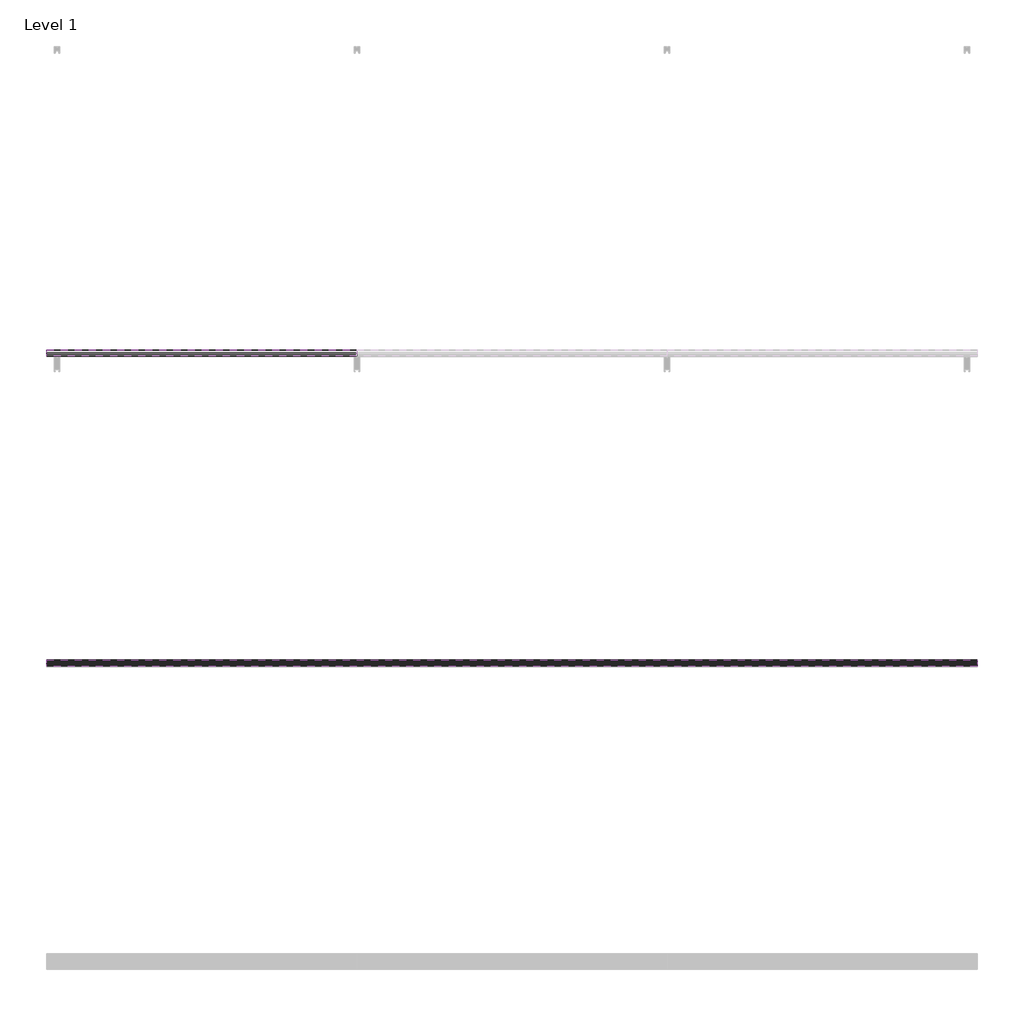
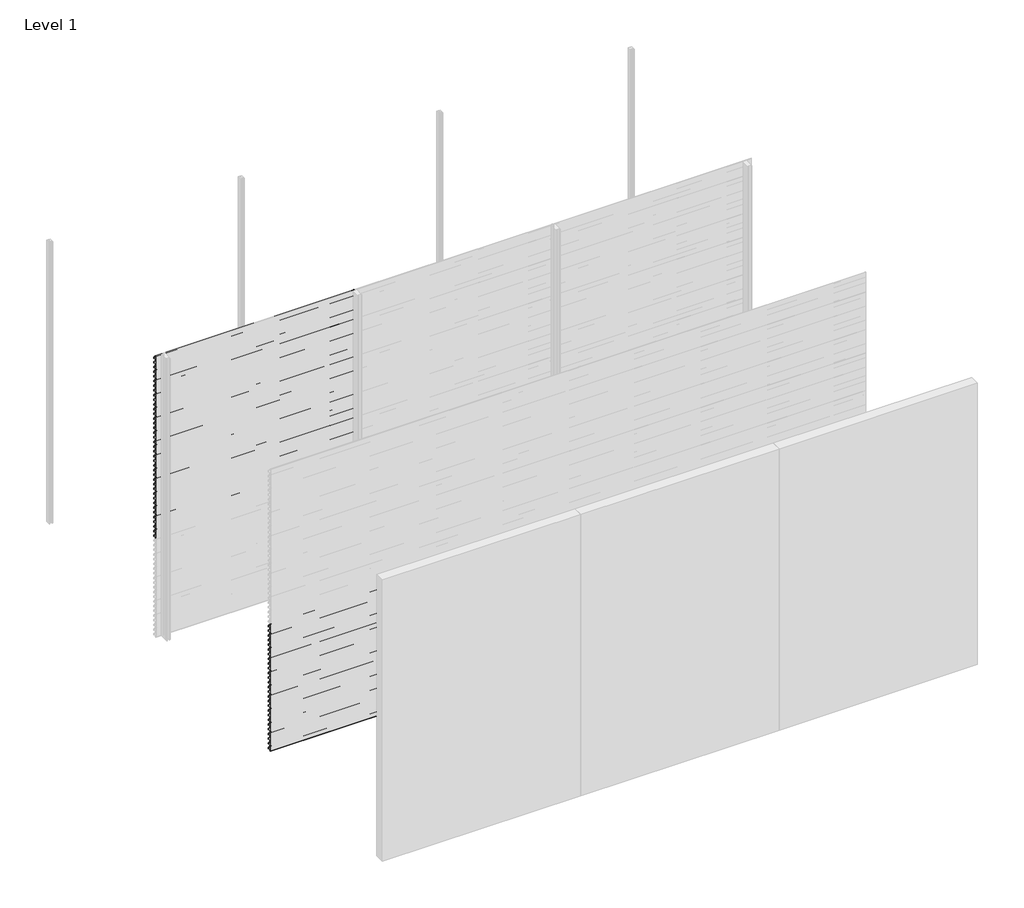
# One storey, part 25 of 38: 66 proxies.
"""IFC4 building model written with IfcOpenShell, lengths in millimetres."""

from ifc_helpers import new_model, si_unit, frame, origin, place, context, project, spatial, polyline, outline, extrude, element, save

model = new_model("IFC4")

# Units and contexts
model_context = context("Model", 3, world=origin())
ifc_project = project(units=[si_unit("LENGTHUNIT", "METRE", prefix="MILLI")], contexts=[model_context])

# Site, building, storey
site = spatial("IfcSite", under=ifc_project)
building = spatial("IfcBuilding", under=site)
storey = spatial("IfcBuildingStorey", under=building, Name="Level 1", Elevation=0.0)

# Proxies
placement = place(None, origin())
element("IfcBuildingElementProxy", 1, Name="Wall Sweeps", at=placement, inside=storey, context=model_context, shape_type="SweptSolid", body=[
    extrude(outline(polyline([(-17996.75, 3000.0), (-17996.75, 2989.19656), (-17974.6057113, 2976.4115489), (-17957.0, 2959.0472005), (-17957.0, 2944.0472005), (-17958.3, 2945.0268207), (-17958.3, 2958.5034593), (-17969.4914725, 2969.541504), (-17994.2797376, 2940.0), (-17995.9767671, 2940.0), (-17970.4200307, 2970.4573323), (-17975.3999793, 2975.3690091), (-17998.0, 2988.4171371), (-17998.0, 3000.0), (-17996.75, 3000.0)])), frame((0.0, 0.0, 0.0), z_axis=(1.0, 0.0, 0.0), x_axis=(0.0, 1.0, 0.0)), (0.0, 0.0, 1.0), 2000.0),
])
element("IfcBuildingElementProxy", 2, Name="Wall Sweeps", at=placement, inside=storey, context=model_context, shape_type="SweptSolid", body=[
    extrude(outline(polyline([(-17996.75, 2950.0), (-17996.75, 2939.19656), (-17974.6057113, 2926.4115489), (-17957.0, 2909.0472005), (-17957.0, 2894.0472005), (-17958.3, 2895.0268207), (-17958.3, 2908.5034593), (-17969.4914725, 2919.541504), (-17994.2797376, 2890.0), (-17995.9767671, 2890.0), (-17970.4200307, 2920.4573323), (-17975.3999793, 2925.3690091), (-17998.0, 2938.4171371), (-17998.0, 2950.0), (-17996.75, 2950.0)])), frame((0.0, 0.0, 0.0), z_axis=(1.0, 0.0, 0.0), x_axis=(0.0, 1.0, 0.0)), (0.0, 0.0, 1.0), 2000.0),
])
element("IfcBuildingElementProxy", 3, Name="Wall Sweeps", at=placement, inside=storey, context=model_context, shape_type="SweptSolid", body=[
    extrude(outline(polyline([(-17996.75, 2900.0), (-17996.75, 2889.19656), (-17974.6057113, 2876.4115489), (-17957.0, 2859.0472005), (-17957.0, 2844.0472005), (-17958.3, 2845.0268207), (-17958.3, 2858.5034593), (-17969.4914725, 2869.541504), (-17994.2797376, 2840.0), (-17995.9767671, 2840.0), (-17970.4200307, 2870.4573323), (-17975.3999793, 2875.3690091), (-17998.0, 2888.4171371), (-17998.0, 2900.0), (-17996.75, 2900.0)])), frame((0.0, 0.0, 0.0), z_axis=(1.0, 0.0, 0.0), x_axis=(0.0, 1.0, 0.0)), (0.0, 0.0, 1.0), 2000.0),
])
element("IfcBuildingElementProxy", 4, Name="Wall Sweeps", at=placement, inside=storey, context=model_context, shape_type="SweptSolid", body=[
    extrude(outline(polyline([(-17996.75, 2850.0), (-17996.75, 2839.19656), (-17974.6057113, 2826.4115489), (-17957.0, 2809.0472005), (-17957.0, 2794.0472005), (-17958.3, 2795.0268207), (-17958.3, 2808.5034593), (-17969.4914725, 2819.541504), (-17994.2797376, 2790.0), (-17995.9767671, 2790.0), (-17970.4200307, 2820.4573323), (-17975.3999793, 2825.3690091), (-17998.0, 2838.4171371), (-17998.0, 2850.0), (-17996.75, 2850.0)])), frame((0.0, 0.0, 0.0), z_axis=(1.0, 0.0, 0.0), x_axis=(0.0, 1.0, 0.0)), (0.0, 0.0, 1.0), 2000.0),
])
element("IfcBuildingElementProxy", 5, Name="Wall Sweeps", at=placement, inside=storey, context=model_context, shape_type="SweptSolid", body=[
    extrude(outline(polyline([(-17996.75, 2800.0), (-17996.75, 2789.19656), (-17974.6057113, 2776.4115489), (-17957.0, 2759.0472005), (-17957.0, 2744.0472005), (-17958.3, 2745.0268207), (-17958.3, 2758.5034593), (-17969.4914725, 2769.541504), (-17994.2797376, 2740.0), (-17995.9767671, 2740.0), (-17970.4200307, 2770.4573323), (-17975.3999793, 2775.3690091), (-17998.0, 2788.4171371), (-17998.0, 2800.0), (-17996.75, 2800.0)])), frame((0.0, 0.0, 0.0), z_axis=(1.0, 0.0, 0.0), x_axis=(0.0, 1.0, 0.0)), (0.0, 0.0, 1.0), 2000.0),
])
element("IfcBuildingElementProxy", 6, Name="Wall Sweeps", at=placement, inside=storey, context=model_context, shape_type="SweptSolid", body=[
    extrude(outline(polyline([(-17996.75, 2750.0), (-17996.75, 2739.19656), (-17974.6057113, 2726.4115489), (-17957.0, 2709.0472005), (-17957.0, 2694.0472005), (-17958.3, 2695.0268207), (-17958.3, 2708.5034593), (-17969.4914725, 2719.541504), (-17994.2797376, 2690.0), (-17995.9767671, 2690.0), (-17970.4200307, 2720.4573323), (-17975.3999793, 2725.3690091), (-17998.0, 2738.4171371), (-17998.0, 2750.0), (-17996.75, 2750.0)])), frame((0.0, 0.0, 0.0), z_axis=(1.0, 0.0, 0.0), x_axis=(0.0, 1.0, 0.0)), (0.0, 0.0, 1.0), 2000.0),
])
element("IfcBuildingElementProxy", 7, Name="Wall Sweeps", at=placement, inside=storey, context=model_context, shape_type="SweptSolid", body=[
    extrude(outline(polyline([(-17996.75, 2700.0), (-17996.75, 2689.19656), (-17974.6057113, 2676.4115489), (-17957.0, 2659.0472005), (-17957.0, 2644.0472005), (-17958.3, 2645.0268207), (-17958.3, 2658.5034593), (-17969.4914725, 2669.541504), (-17994.2797376, 2640.0), (-17995.9767671, 2640.0), (-17970.4200307, 2670.4573323), (-17975.3999793, 2675.3690091), (-17998.0, 2688.4171371), (-17998.0, 2700.0), (-17996.75, 2700.0)])), frame((0.0, 0.0, 0.0), z_axis=(1.0, 0.0, 0.0), x_axis=(0.0, 1.0, 0.0)), (0.0, 0.0, 1.0), 2000.0),
])
element("IfcBuildingElementProxy", 8, Name="Wall Sweeps", at=placement, inside=storey, context=model_context, shape_type="SweptSolid", body=[
    extrude(outline(polyline([(-17996.75, 2650.0), (-17996.75, 2639.19656), (-17974.6057113, 2626.4115489), (-17957.0, 2609.0472005), (-17957.0, 2594.0472005), (-17958.3, 2595.0268207), (-17958.3, 2608.5034593), (-17969.4914725, 2619.541504), (-17994.2797376, 2590.0), (-17995.9767671, 2590.0), (-17970.4200307, 2620.4573323), (-17975.3999793, 2625.3690091), (-17998.0, 2638.4171371), (-17998.0, 2650.0), (-17996.75, 2650.0)])), frame((0.0, 0.0, 0.0), z_axis=(1.0, 0.0, 0.0), x_axis=(0.0, 1.0, 0.0)), (0.0, 0.0, 1.0), 2000.0),
])
element("IfcBuildingElementProxy", 9, Name="Wall Sweeps", at=placement, inside=storey, context=model_context, shape_type="SweptSolid", body=[
    extrude(outline(polyline([(-17996.75, 2600.0), (-17996.75, 2589.19656), (-17974.6057113, 2576.4115489), (-17957.0, 2559.0472005), (-17957.0, 2544.0472005), (-17958.3, 2545.0268207), (-17958.3, 2558.5034593), (-17969.4914725, 2569.541504), (-17994.2797376, 2540.0), (-17995.9767671, 2540.0), (-17970.4200307, 2570.4573323), (-17975.3999793, 2575.3690091), (-17998.0, 2588.4171371), (-17998.0, 2600.0), (-17996.75, 2600.0)])), frame((0.0, 0.0, 0.0), z_axis=(1.0, 0.0, 0.0), x_axis=(0.0, 1.0, 0.0)), (0.0, 0.0, 1.0), 2000.0),
])
element("IfcBuildingElementProxy", 10, Name="Wall Sweeps", at=placement, inside=storey, context=model_context, shape_type="SweptSolid", body=[
    extrude(outline(polyline([(-17996.75, 2550.0), (-17996.75, 2539.19656), (-17974.6057113, 2526.4115489), (-17957.0, 2509.0472005), (-17957.0, 2494.0472005), (-17958.3, 2495.0268207), (-17958.3, 2508.5034593), (-17969.4914725, 2519.541504), (-17994.2797376, 2490.0), (-17995.9767671, 2490.0), (-17970.4200307, 2520.4573323), (-17975.3999793, 2525.3690091), (-17998.0, 2538.4171371), (-17998.0, 2550.0), (-17996.75, 2550.0)])), frame((0.0, 0.0, 0.0), z_axis=(1.0, 0.0, 0.0), x_axis=(0.0, 1.0, 0.0)), (0.0, 0.0, 1.0), 2000.0),
])
element("IfcBuildingElementProxy", 11, Name="Wall Sweeps", at=placement, inside=storey, context=model_context, shape_type="SweptSolid", body=[
    extrude(outline(polyline([(-17996.75, 2500.0), (-17996.75, 2489.19656), (-17974.6057113, 2476.4115489), (-17957.0, 2459.0472005), (-17957.0, 2444.0472005), (-17958.3, 2445.0268207), (-17958.3, 2458.5034593), (-17969.4914725, 2469.541504), (-17994.2797376, 2440.0), (-17995.9767671, 2440.0), (-17970.4200307, 2470.4573323), (-17975.3999793, 2475.3690091), (-17998.0, 2488.4171371), (-17998.0, 2500.0), (-17996.75, 2500.0)])), frame((0.0, 0.0, 0.0), z_axis=(1.0, 0.0, 0.0), x_axis=(0.0, 1.0, 0.0)), (0.0, 0.0, 1.0), 2000.0),
])
element("IfcBuildingElementProxy", 12, Name="Wall Sweeps", at=placement, inside=storey, context=model_context, shape_type="SweptSolid", body=[
    extrude(outline(polyline([(-17996.75, 2450.0), (-17996.75, 2439.19656), (-17974.6057113, 2426.4115489), (-17957.0, 2409.0472005), (-17957.0, 2394.0472005), (-17958.3, 2395.0268207), (-17958.3, 2408.5034593), (-17969.4914725, 2419.541504), (-17994.2797376, 2390.0), (-17995.9767671, 2390.0), (-17970.4200307, 2420.4573323), (-17975.3999793, 2425.3690091), (-17998.0, 2438.4171371), (-17998.0, 2450.0), (-17996.75, 2450.0)])), frame((0.0, 0.0, 0.0), z_axis=(1.0, 0.0, 0.0), x_axis=(0.0, 1.0, 0.0)), (0.0, 0.0, 1.0), 2000.0),
])
element("IfcBuildingElementProxy", 13, Name="Wall Sweeps", at=placement, inside=storey, context=model_context, shape_type="SweptSolid", body=[
    extrude(outline(polyline([(-17996.75, 2400.0), (-17996.75, 2389.19656), (-17974.6057113, 2376.4115489), (-17957.0, 2359.0472005), (-17957.0, 2344.0472005), (-17958.3, 2345.0268207), (-17958.3, 2358.5034593), (-17969.4914725, 2369.541504), (-17994.2797376, 2340.0), (-17995.9767671, 2340.0), (-17970.4200307, 2370.4573323), (-17975.3999793, 2375.3690091), (-17998.0, 2388.4171371), (-17998.0, 2400.0), (-17996.75, 2400.0)])), frame((0.0, 0.0, 0.0), z_axis=(1.0, 0.0, 0.0), x_axis=(0.0, 1.0, 0.0)), (0.0, 0.0, 1.0), 2000.0),
])
element("IfcBuildingElementProxy", 14, Name="Wall Sweeps", at=placement, inside=storey, context=model_context, shape_type="SweptSolid", body=[
    extrude(outline(polyline([(-17996.75, 2350.0), (-17996.75, 2339.19656), (-17974.6057113, 2326.4115489), (-17957.0, 2309.0472005), (-17957.0, 2294.0472005), (-17958.3, 2295.0268207), (-17958.3, 2308.5034593), (-17969.4914725, 2319.541504), (-17994.2797376, 2290.0), (-17995.9767671, 2290.0), (-17970.4200307, 2320.4573323), (-17975.3999793, 2325.3690091), (-17998.0, 2338.4171371), (-17998.0, 2350.0), (-17996.75, 2350.0)])), frame((0.0, 0.0, 0.0), z_axis=(1.0, 0.0, 0.0), x_axis=(0.0, 1.0, 0.0)), (0.0, 0.0, 1.0), 2000.0),
])
element("IfcBuildingElementProxy", 15, Name="Wall Sweeps", at=placement, inside=storey, context=model_context, shape_type="SweptSolid", body=[
    extrude(outline(polyline([(-17996.75, 2300.0), (-17996.75, 2289.19656), (-17974.6057113, 2276.4115489), (-17957.0, 2259.0472005), (-17957.0, 2244.0472005), (-17958.3, 2245.0268207), (-17958.3, 2258.5034593), (-17969.4914725, 2269.541504), (-17994.2797376, 2240.0), (-17995.9767671, 2240.0), (-17970.4200307, 2270.4573323), (-17975.3999793, 2275.3690091), (-17998.0, 2288.4171371), (-17998.0, 2300.0), (-17996.75, 2300.0)])), frame((0.0, 0.0, 0.0), z_axis=(1.0, 0.0, 0.0), x_axis=(0.0, 1.0, 0.0)), (0.0, 0.0, 1.0), 2000.0),
])
element("IfcBuildingElementProxy", 16, Name="Wall Sweeps", at=placement, inside=storey, context=model_context, shape_type="SweptSolid", body=[
    extrude(outline(polyline([(-17996.75, 2250.0), (-17996.75, 2239.19656), (-17974.6057113, 2226.4115489), (-17957.0, 2209.0472005), (-17957.0, 2194.0472005), (-17958.3, 2195.0268207), (-17958.3, 2208.5034593), (-17969.4914725, 2219.541504), (-17994.2797376, 2190.0), (-17995.9767671, 2190.0), (-17970.4200307, 2220.4573323), (-17975.3999793, 2225.3690091), (-17998.0, 2238.4171371), (-17998.0, 2250.0), (-17996.75, 2250.0)])), frame((0.0, 0.0, 0.0), z_axis=(1.0, 0.0, 0.0), x_axis=(0.0, 1.0, 0.0)), (0.0, 0.0, 1.0), 2000.0),
])
element("IfcBuildingElementProxy", 17, Name="Wall Sweeps", at=placement, inside=storey, context=model_context, shape_type="SweptSolid", body=[
    extrude(outline(polyline([(-17996.75, 2200.0), (-17996.75, 2189.19656), (-17974.6057113, 2176.4115489), (-17957.0, 2159.0472005), (-17957.0, 2144.0472005), (-17958.3, 2145.0268207), (-17958.3, 2158.5034593), (-17969.4914725, 2169.541504), (-17994.2797376, 2140.0), (-17995.9767671, 2140.0), (-17970.4200307, 2170.4573323), (-17975.3999793, 2175.3690091), (-17998.0, 2188.4171371), (-17998.0, 2200.0), (-17996.75, 2200.0)])), frame((0.0, 0.0, 0.0), z_axis=(1.0, 0.0, 0.0), x_axis=(0.0, 1.0, 0.0)), (0.0, 0.0, 1.0), 2000.0),
])
element("IfcBuildingElementProxy", 18, Name="Wall Sweeps", at=placement, inside=storey, context=model_context, shape_type="SweptSolid", body=[
    extrude(outline(polyline([(-17996.75, 2150.0), (-17996.75, 2139.19656), (-17974.6057113, 2126.4115489), (-17957.0, 2109.0472005), (-17957.0, 2094.0472005), (-17958.3, 2095.0268207), (-17958.3, 2108.5034593), (-17969.4914725, 2119.541504), (-17994.2797376, 2090.0), (-17995.9767671, 2090.0), (-17970.4200307, 2120.4573323), (-17975.3999793, 2125.3690091), (-17998.0, 2138.4171371), (-17998.0, 2150.0), (-17996.75, 2150.0)])), frame((0.0, 0.0, 0.0), z_axis=(1.0, 0.0, 0.0), x_axis=(0.0, 1.0, 0.0)), (0.0, 0.0, 1.0), 2000.0),
])
element("IfcBuildingElementProxy", 19, Name="Wall Sweeps", at=placement, inside=storey, context=model_context, shape_type="SweptSolid", body=[
    extrude(outline(polyline([(-17996.75, 2100.0), (-17996.75, 2089.19656), (-17974.6057113, 2076.4115489), (-17957.0, 2059.0472005), (-17957.0, 2044.0472005), (-17958.3, 2045.0268207), (-17958.3, 2058.5034593), (-17969.4914725, 2069.541504), (-17994.2797376, 2040.0), (-17995.9767671, 2040.0), (-17970.4200307, 2070.4573323), (-17975.3999793, 2075.3690091), (-17998.0, 2088.4171371), (-17998.0, 2100.0), (-17996.75, 2100.0)])), frame((0.0, 0.0, 0.0), z_axis=(1.0, 0.0, 0.0), x_axis=(0.0, 1.0, 0.0)), (0.0, 0.0, 1.0), 2000.0),
])
element("IfcBuildingElementProxy", 20, Name="Wall Sweeps", at=placement, inside=storey, context=model_context, shape_type="SweptSolid", body=[
    extrude(outline(polyline([(-17996.75, 2050.0), (-17996.75, 2039.19656), (-17974.6057113, 2026.4115489), (-17957.0, 2009.0472005), (-17957.0, 1994.0472005), (-17958.3, 1995.0268207), (-17958.3, 2008.5034593), (-17969.4914725, 2019.541504), (-17994.2797376, 1990.0), (-17995.9767671, 1990.0), (-17970.4200307, 2020.4573323), (-17975.3999793, 2025.3690091), (-17998.0, 2038.4171371), (-17998.0, 2050.0), (-17996.75, 2050.0)])), frame((0.0, 0.0, 0.0), z_axis=(1.0, 0.0, 0.0), x_axis=(0.0, 1.0, 0.0)), (0.0, 0.0, 1.0), 2000.0),
])
element("IfcBuildingElementProxy", 21, Name="Wall Sweeps", at=placement, inside=storey, context=model_context, shape_type="SweptSolid", body=[
    extrude(outline(polyline([(-17996.75, 2000.0), (-17996.75, 1989.19656), (-17974.6057113, 1976.4115489), (-17957.0, 1959.0472005), (-17957.0, 1944.0472005), (-17958.3, 1945.0268207), (-17958.3, 1958.5034593), (-17969.4914725, 1969.541504), (-17994.2797376, 1940.0), (-17995.9767671, 1940.0), (-17970.4200307, 1970.4573323), (-17975.3999793, 1975.3690091), (-17998.0, 1988.4171371), (-17998.0, 2000.0), (-17996.75, 2000.0)])), frame((0.0, 0.0, 0.0), z_axis=(1.0, 0.0, 0.0), x_axis=(0.0, 1.0, 0.0)), (0.0, 0.0, 1.0), 2000.0),
])
element("IfcBuildingElementProxy", 22, Name="Wall Sweeps", at=placement, inside=storey, context=model_context, shape_type="SweptSolid", body=[
    extrude(outline(polyline([(-17996.75, 1950.0), (-17996.75, 1939.19656), (-17974.6057113, 1926.4115489), (-17957.0, 1909.0472005), (-17957.0, 1894.0472005), (-17958.3, 1895.0268207), (-17958.3, 1908.5034593), (-17969.4914725, 1919.541504), (-17994.2797376, 1890.0), (-17995.9767671, 1890.0), (-17970.4200307, 1920.4573323), (-17975.3999793, 1925.3690091), (-17998.0, 1938.4171371), (-17998.0, 1950.0), (-17996.75, 1950.0)])), frame((0.0, 0.0, 0.0), z_axis=(1.0, 0.0, 0.0), x_axis=(0.0, 1.0, 0.0)), (0.0, 0.0, 1.0), 2000.0),
])
element("IfcBuildingElementProxy", 23, Name="Wall Sweeps", at=placement, inside=storey, context=model_context, shape_type="SweptSolid", body=[
    extrude(outline(polyline([(-17996.75, 1900.0), (-17996.75, 1889.19656), (-17974.6057113, 1876.4115489), (-17957.0, 1859.0472005), (-17957.0, 1844.0472005), (-17958.3, 1845.0268207), (-17958.3, 1858.5034593), (-17969.4914725, 1869.541504), (-17994.2797376, 1840.0), (-17995.9767671, 1840.0), (-17970.4200307, 1870.4573323), (-17975.3999793, 1875.3690091), (-17998.0, 1888.4171371), (-17998.0, 1900.0), (-17996.75, 1900.0)])), frame((0.0, 0.0, 0.0), z_axis=(1.0, 0.0, 0.0), x_axis=(0.0, 1.0, 0.0)), (0.0, 0.0, 1.0), 2000.0),
])
element("IfcBuildingElementProxy", 24, Name="Wall Sweeps", at=placement, inside=storey, context=model_context, shape_type="SweptSolid", body=[
    extrude(outline(polyline([(-17996.75, 1850.0), (-17996.75, 1839.19656), (-17974.6057113, 1826.4115489), (-17957.0, 1809.0472005), (-17957.0, 1794.0472005), (-17958.3, 1795.0268207), (-17958.3, 1808.5034593), (-17969.4914725, 1819.541504), (-17994.2797376, 1790.0), (-17995.9767671, 1790.0), (-17970.4200307, 1820.4573323), (-17975.3999793, 1825.3690091), (-17998.0, 1838.4171371), (-17998.0, 1850.0), (-17996.75, 1850.0)])), frame((0.0, 0.0, 0.0), z_axis=(1.0, 0.0, 0.0), x_axis=(0.0, 1.0, 0.0)), (0.0, 0.0, 1.0), 2000.0),
])
element("IfcBuildingElementProxy", 25, Name="Wall Sweeps", at=placement, inside=storey, context=model_context, shape_type="SweptSolid", body=[
    extrude(outline(polyline([(-17996.75, 1800.0), (-17996.75, 1789.19656), (-17974.6057113, 1776.4115489), (-17957.0, 1759.0472005), (-17957.0, 1744.0472005), (-17958.3, 1745.0268207), (-17958.3, 1758.5034593), (-17969.4914725, 1769.541504), (-17994.2797376, 1740.0), (-17995.9767671, 1740.0), (-17970.4200307, 1770.4573323), (-17975.3999793, 1775.3690091), (-17998.0, 1788.4171371), (-17998.0, 1800.0), (-17996.75, 1800.0)])), frame((0.0, 0.0, 0.0), z_axis=(1.0, 0.0, 0.0), x_axis=(0.0, 1.0, 0.0)), (0.0, 0.0, 1.0), 2000.0),
])
element("IfcBuildingElementProxy", 26, Name="Wall Sweeps", at=placement, inside=storey, context=model_context, shape_type="SweptSolid", body=[
    extrude(outline(polyline([(-17996.75, 1750.0), (-17996.75, 1739.19656), (-17974.6057113, 1726.4115489), (-17957.0, 1709.0472005), (-17957.0, 1694.0472005), (-17958.3, 1695.0268207), (-17958.3, 1708.5034593), (-17969.4914725, 1719.541504), (-17994.2797376, 1690.0), (-17995.9767671, 1690.0), (-17970.4200307, 1720.4573323), (-17975.3999793, 1725.3690091), (-17998.0, 1738.4171371), (-17998.0, 1750.0), (-17996.75, 1750.0)])), frame((0.0, 0.0, 0.0), z_axis=(1.0, 0.0, 0.0), x_axis=(0.0, 1.0, 0.0)), (0.0, 0.0, 1.0), 2000.0),
])
element("IfcBuildingElementProxy", 27, Name="Wall Sweeps", at=placement, inside=storey, context=model_context, shape_type="SweptSolid", body=[
    extrude(outline(polyline([(-17996.75, 1700.0), (-17996.75, 1689.19656), (-17974.6057113, 1676.4115489), (-17957.0, 1659.0472005), (-17957.0, 1644.0472005), (-17958.3, 1645.0268207), (-17958.3, 1658.5034593), (-17969.4914725, 1669.541504), (-17994.2797376, 1640.0), (-17995.9767671, 1640.0), (-17970.4200307, 1670.4573323), (-17975.3999793, 1675.3690091), (-17998.0, 1688.4171371), (-17998.0, 1700.0), (-17996.75, 1700.0)])), frame((0.0, 0.0, 0.0), z_axis=(1.0, 0.0, 0.0), x_axis=(0.0, 1.0, 0.0)), (0.0, 0.0, 1.0), 2000.0),
])
element("IfcBuildingElementProxy", 28, Name="Wall Sweeps", at=placement, inside=storey, context=model_context, shape_type="SweptSolid", body=[
    extrude(outline(polyline([(-17996.75, 1650.0), (-17996.75, 1639.19656), (-17974.6057113, 1626.4115489), (-17957.0, 1609.0472005), (-17957.0, 1594.0472005), (-17958.3, 1595.0268207), (-17958.3, 1608.5034593), (-17969.4914725, 1619.541504), (-17994.2797376, 1590.0), (-17995.9767671, 1590.0), (-17970.4200307, 1620.4573323), (-17975.3999793, 1625.3690091), (-17998.0, 1638.4171371), (-17998.0, 1650.0), (-17996.75, 1650.0)])), frame((0.0, 0.0, 0.0), z_axis=(1.0, 0.0, 0.0), x_axis=(0.0, 1.0, 0.0)), (0.0, 0.0, 1.0), 2000.0),
])
element("IfcBuildingElementProxy", 29, Name="Wall Sweeps", at=placement, inside=storey, context=model_context, shape_type="SweptSolid", body=[
    extrude(outline(polyline([(-17996.75, 1600.0), (-17996.75, 1589.19656), (-17974.6057113, 1576.4115489), (-17957.0, 1559.0472005), (-17957.0, 1544.0472005), (-17958.3, 1545.0268207), (-17958.3, 1558.5034593), (-17969.4914725, 1569.541504), (-17994.2797376, 1540.0), (-17995.9767671, 1540.0), (-17970.4200307, 1570.4573323), (-17975.3999793, 1575.3690091), (-17998.0, 1588.4171371), (-17998.0, 1600.0), (-17996.75, 1600.0)])), frame((0.0, 0.0, 0.0), z_axis=(1.0, 0.0, 0.0), x_axis=(0.0, 1.0, 0.0)), (0.0, 0.0, 1.0), 2000.0),
])
element("IfcBuildingElementProxy", 30, Name="Wall Sweeps", at=placement, inside=storey, context=model_context, shape_type="SweptSolid", body=[
    extrude(outline(polyline([(-17996.75, 1550.0), (-17996.75, 1539.19656), (-17974.6057113, 1526.4115489), (-17957.0, 1509.0472005), (-17957.0, 1494.0472005), (-17958.3, 1495.0268207), (-17958.3, 1508.5034593), (-17969.4914725, 1519.541504), (-17994.2797376, 1490.0), (-17995.9767671, 1490.0), (-17970.4200307, 1520.4573323), (-17975.3999793, 1525.3690091), (-17998.0, 1538.4171371), (-17998.0, 1550.0), (-17996.75, 1550.0)])), frame((0.0, 0.0, 0.0), z_axis=(1.0, 0.0, 0.0), x_axis=(0.0, 1.0, 0.0)), (0.0, 0.0, 1.0), 2000.0),
])
element("IfcBuildingElementProxy", 31, Name="Wall Sweeps", at=placement, inside=storey, context=model_context, shape_type="SweptSolid", body=[
    extrude(outline(polyline([(-17996.75, 1500.0), (-17996.75, 1489.19656), (-17974.6057113, 1476.4115489), (-17957.0, 1459.0472005), (-17957.0, 1444.0472005), (-17958.3, 1445.0268207), (-17958.3, 1458.5034593), (-17969.4914725, 1469.541504), (-17994.2797376, 1440.0), (-17995.9767671, 1440.0), (-17970.4200307, 1470.4573323), (-17975.3999793, 1475.3690091), (-17998.0, 1488.4171371), (-17998.0, 1500.0), (-17996.75, 1500.0)])), frame((0.0, 0.0, 0.0), z_axis=(1.0, 0.0, 0.0), x_axis=(0.0, 1.0, 0.0)), (0.0, 0.0, 1.0), 2000.0),
])
element("IfcBuildingElementProxy", 32, Name="Wall Sweeps", at=placement, inside=storey, context=model_context, shape_type="SweptSolid", body=[
    extrude(outline(polyline([(-17996.75, 1450.0), (-17996.75, 1439.19656), (-17974.6057113, 1426.4115489), (-17957.0, 1409.0472005), (-17957.0, 1394.0472005), (-17958.3, 1395.0268207), (-17958.3, 1408.5034593), (-17969.4914725, 1419.541504), (-17994.2797376, 1390.0), (-17995.9767671, 1390.0), (-17970.4200307, 1420.4573323), (-17975.3999793, 1425.3690091), (-17998.0, 1438.4171371), (-17998.0, 1450.0), (-17996.75, 1450.0)])), frame((0.0, 0.0, 0.0), z_axis=(1.0, 0.0, 0.0), x_axis=(0.0, 1.0, 0.0)), (0.0, 0.0, 1.0), 2000.0),
])
element("IfcBuildingElementProxy", 33, Name="Wall Sweeps", at=placement, inside=storey, context=model_context, shape_type="SweptSolid", body=[
    extrude(outline(polyline([(-17996.75, 1400.0), (-17996.75, 1389.19656), (-17974.6057113, 1376.4115489), (-17957.0, 1359.0472005), (-17957.0, 1344.0472005), (-17958.3, 1345.0268207), (-17958.3, 1358.5034593), (-17969.4914725, 1369.541504), (-17994.2797376, 1340.0), (-17995.9767671, 1340.0), (-17970.4200307, 1370.4573323), (-17975.3999793, 1375.3690091), (-17998.0, 1388.4171371), (-17998.0, 1400.0), (-17996.75, 1400.0)])), frame((0.0, 0.0, 0.0), z_axis=(1.0, 0.0, 0.0), x_axis=(0.0, 1.0, 0.0)), (0.0, 0.0, 1.0), 2000.0),
])
element("IfcBuildingElementProxy", 34, Name="Wall Sweeps", at=placement, inside=storey, context=model_context, shape_type="SweptSolid", body=[
    extrude(outline(polyline([(-17996.75, 1350.0), (-17996.75, 1339.19656), (-17974.6057113, 1326.4115489), (-17957.0, 1309.0472005), (-17957.0, 1294.0472005), (-17958.3, 1295.0268207), (-17958.3, 1308.5034593), (-17969.4914725, 1319.541504), (-17994.2797376, 1290.0), (-17995.9767671, 1290.0), (-17970.4200307, 1320.4573323), (-17975.3999793, 1325.3690091), (-17998.0, 1338.4171371), (-17998.0, 1350.0), (-17996.75, 1350.0)])), frame((0.0, 0.0, 0.0), z_axis=(1.0, 0.0, 0.0), x_axis=(0.0, 1.0, 0.0)), (0.0, 0.0, 1.0), 2000.0),
])
element("IfcBuildingElementProxy", 35, Name="Wall Sweeps", at=placement, inside=storey, context=model_context, shape_type="SweptSolid", body=[
    extrude(outline(polyline([(-17996.75, 1300.0), (-17996.75, 1289.19656), (-17974.6057113, 1276.4115489), (-17957.0, 1259.0472005), (-17957.0, 1244.0472005), (-17958.3, 1245.0268207), (-17958.3, 1258.5034593), (-17969.4914725, 1269.541504), (-17994.2797376, 1240.0), (-17995.9767671, 1240.0), (-17970.4200307, 1270.4573323), (-17975.3999793, 1275.3690091), (-17998.0, 1288.4171371), (-17998.0, 1300.0), (-17996.75, 1300.0)])), frame((0.0, 0.0, 0.0), z_axis=(1.0, 0.0, 0.0), x_axis=(0.0, 1.0, 0.0)), (0.0, 0.0, 1.0), 2000.0),
])
element("IfcBuildingElementProxy", 36, Name="Wall Sweeps", at=placement, inside=storey, context=model_context, shape_type="SweptSolid", body=[
    extrude(outline(polyline([(-17996.75, 1250.0), (-17996.75, 1239.19656), (-17974.6057113, 1226.4115489), (-17957.0, 1209.0472005), (-17957.0, 1194.0472005), (-17958.3, 1195.0268207), (-17958.3, 1208.5034593), (-17969.4914725, 1219.541504), (-17994.2797376, 1190.0), (-17995.9767671, 1190.0), (-17970.4200307, 1220.4573323), (-17975.3999793, 1225.3690091), (-17998.0, 1238.4171371), (-17998.0, 1250.0), (-17996.75, 1250.0)])), frame((0.0, 0.0, 0.0), z_axis=(1.0, 0.0, 0.0), x_axis=(0.0, 1.0, 0.0)), (0.0, 0.0, 1.0), 2000.0),
])
element("IfcBuildingElementProxy", 37, Name="Wall Sweeps", at=placement, inside=storey, context=model_context, shape_type="SweptSolid", body=[
    extrude(outline(polyline([(-17996.75, 1200.0), (-17996.75, 1189.19656), (-17974.6057113, 1176.4115489), (-17957.0, 1159.0472005), (-17957.0, 1144.0472005), (-17958.3, 1145.0268207), (-17958.3, 1158.5034593), (-17969.4914725, 1169.541504), (-17994.2797376, 1140.0), (-17995.9767671, 1140.0), (-17970.4200307, 1170.4573323), (-17975.3999793, 1175.3690091), (-17998.0, 1188.4171371), (-17998.0, 1200.0), (-17996.75, 1200.0)])), frame((0.0, 0.0, 0.0), z_axis=(1.0, 0.0, 0.0), x_axis=(0.0, 1.0, 0.0)), (0.0, 0.0, 1.0), 2000.0),
])
element("IfcBuildingElementProxy", 38, Name="Wall Sweeps", at=placement, inside=storey, context=model_context, shape_type="SweptSolid", body=[
    extrude(outline(polyline([(-17996.75, 1150.0), (-17996.75, 1139.19656), (-17974.6057113, 1126.4115489), (-17957.0, 1109.0472005), (-17957.0, 1094.0472005), (-17958.3, 1095.0268207), (-17958.3, 1108.5034593), (-17969.4914725, 1119.541504), (-17994.2797376, 1090.0), (-17995.9767671, 1090.0), (-17970.4200307, 1120.4573323), (-17975.3999793, 1125.3690091), (-17998.0, 1138.4171371), (-17998.0, 1150.0), (-17996.75, 1150.0)])), frame((0.0, 0.0, 0.0), z_axis=(1.0, 0.0, 0.0), x_axis=(0.0, 1.0, 0.0)), (0.0, 0.0, 1.0), 2000.0),
])
element("IfcBuildingElementProxy", 39, Name="Wall Sweeps", at=placement, inside=storey, context=model_context, shape_type="SweptSolid", body=[
    extrude(outline(polyline([(-17996.75, 1100.0), (-17996.75, 1089.19656), (-17974.6057113, 1076.4115489), (-17957.0, 1059.0472005), (-17957.0, 1044.0472005), (-17958.3, 1045.0268207), (-17958.3, 1058.5034593), (-17969.4914725, 1069.541504), (-17994.2797376, 1040.0), (-17995.9767671, 1040.0), (-17970.4200307, 1070.4573323), (-17975.3999793, 1075.3690091), (-17998.0, 1088.4171371), (-17998.0, 1100.0), (-17996.75, 1100.0)])), frame((0.0, 0.0, 0.0), z_axis=(1.0, 0.0, 0.0), x_axis=(0.0, 1.0, 0.0)), (0.0, 0.0, 1.0), 2000.0),
])
element("IfcBuildingElementProxy", 40, Name="Wall Sweeps", at=placement, inside=storey, context=model_context, shape_type="SweptSolid", body=[
    extrude(outline(polyline([(-19996.75, 1350.0), (-19996.75, 1339.19656), (-19974.6057113, 1326.4115489), (-19957.0, 1309.0472005), (-19957.0, 1294.0472005), (-19958.3, 1295.0268207), (-19958.3, 1308.5034593), (-19969.4914725, 1319.541504), (-19994.2797376, 1290.0), (-19995.9767671, 1290.0), (-19970.4200307, 1320.4573323), (-19975.3999793, 1325.3690091), (-19998.0, 1338.4171371), (-19998.0, 1350.0), (-19996.75, 1350.0)])), frame((0.0, 0.0, 0.0), z_axis=(1.0, 0.0, 0.0), x_axis=(0.0, 1.0, 0.0)), (0.0, 0.0, 1.0), 6000.0),
])
element("IfcBuildingElementProxy", 41, Name="Wall Sweeps", at=placement, inside=storey, context=model_context, shape_type="SweptSolid", body=[
    extrude(outline(polyline([(-19996.75, 1300.0), (-19996.75, 1289.19656), (-19974.6057113, 1276.4115489), (-19957.0, 1259.0472005), (-19957.0, 1244.0472005), (-19958.3, 1245.0268207), (-19958.3, 1258.5034593), (-19969.4914725, 1269.541504), (-19994.2797376, 1240.0), (-19995.9767671, 1240.0), (-19970.4200307, 1270.4573323), (-19975.3999793, 1275.3690091), (-19998.0, 1288.4171371), (-19998.0, 1300.0), (-19996.75, 1300.0)])), frame((0.0, 0.0, 0.0), z_axis=(1.0, 0.0, 0.0), x_axis=(0.0, 1.0, 0.0)), (0.0, 0.0, 1.0), 6000.0),
])
element("IfcBuildingElementProxy", 42, Name="Wall Sweeps", at=placement, inside=storey, context=model_context, shape_type="SweptSolid", body=[
    extrude(outline(polyline([(-19996.75, 1250.0), (-19996.75, 1239.19656), (-19974.6057113, 1226.4115489), (-19957.0, 1209.0472005), (-19957.0, 1194.0472005), (-19958.3, 1195.0268207), (-19958.3, 1208.5034593), (-19969.4914725, 1219.541504), (-19994.2797376, 1190.0), (-19995.9767671, 1190.0), (-19970.4200307, 1220.4573323), (-19975.3999793, 1225.3690091), (-19998.0, 1238.4171371), (-19998.0, 1250.0), (-19996.75, 1250.0)])), frame((0.0, 0.0, 0.0), z_axis=(1.0, 0.0, 0.0), x_axis=(0.0, 1.0, 0.0)), (0.0, 0.0, 1.0), 6000.0),
])
element("IfcBuildingElementProxy", 43, Name="Wall Sweeps", at=placement, inside=storey, context=model_context, shape_type="SweptSolid", body=[
    extrude(outline(polyline([(-19996.75, 1200.0), (-19996.75, 1189.19656), (-19974.6057113, 1176.4115489), (-19957.0, 1159.0472005), (-19957.0, 1144.0472005), (-19958.3, 1145.0268207), (-19958.3, 1158.5034593), (-19969.4914725, 1169.541504), (-19994.2797376, 1140.0), (-19995.9767671, 1140.0), (-19970.4200307, 1170.4573323), (-19975.3999793, 1175.3690091), (-19998.0, 1188.4171371), (-19998.0, 1200.0), (-19996.75, 1200.0)])), frame((0.0, 0.0, 0.0), z_axis=(1.0, 0.0, 0.0), x_axis=(0.0, 1.0, 0.0)), (0.0, 0.0, 1.0), 6000.0),
])
element("IfcBuildingElementProxy", 44, Name="Wall Sweeps", at=placement, inside=storey, context=model_context, shape_type="SweptSolid", body=[
    extrude(outline(polyline([(-19996.75, 1150.0), (-19996.75, 1139.19656), (-19974.6057113, 1126.4115489), (-19957.0, 1109.0472005), (-19957.0, 1094.0472005), (-19958.3, 1095.0268207), (-19958.3, 1108.5034593), (-19969.4914725, 1119.541504), (-19994.2797376, 1090.0), (-19995.9767671, 1090.0), (-19970.4200307, 1120.4573323), (-19975.3999793, 1125.3690091), (-19998.0, 1138.4171371), (-19998.0, 1150.0), (-19996.75, 1150.0)])), frame((0.0, 0.0, 0.0), z_axis=(1.0, 0.0, 0.0), x_axis=(0.0, 1.0, 0.0)), (0.0, 0.0, 1.0), 6000.0),
])
element("IfcBuildingElementProxy", 45, Name="Wall Sweeps", at=placement, inside=storey, context=model_context, shape_type="SweptSolid", body=[
    extrude(outline(polyline([(-19996.75, 1100.0), (-19996.75, 1089.19656), (-19974.6057113, 1076.4115489), (-19957.0, 1059.0472005), (-19957.0, 1044.0472005), (-19958.3, 1045.0268207), (-19958.3, 1058.5034593), (-19969.4914725, 1069.541504), (-19994.2797376, 1040.0), (-19995.9767671, 1040.0), (-19970.4200307, 1070.4573323), (-19975.3999793, 1075.3690091), (-19998.0, 1088.4171371), (-19998.0, 1100.0), (-19996.75, 1100.0)])), frame((0.0, 0.0, 0.0), z_axis=(1.0, 0.0, 0.0), x_axis=(0.0, 1.0, 0.0)), (0.0, 0.0, 1.0), 6000.0),
])
element("IfcBuildingElementProxy", 46, Name="Wall Sweeps", at=placement, inside=storey, context=model_context, shape_type="SweptSolid", body=[
    extrude(outline(polyline([(-19996.75, 1050.0), (-19996.75, 1039.19656), (-19974.6057113, 1026.4115489), (-19957.0, 1009.0472005), (-19957.0, 994.0472005), (-19958.3, 995.0268207), (-19958.3, 1008.5034593), (-19969.4914725, 1019.541504), (-19994.2797376, 990.0), (-19995.9767671, 990.0), (-19970.4200307, 1020.4573323), (-19975.3999793, 1025.3690091), (-19998.0, 1038.4171371), (-19998.0, 1050.0), (-19996.75, 1050.0)])), frame((0.0, 0.0, 0.0), z_axis=(1.0, 0.0, 0.0), x_axis=(0.0, 1.0, 0.0)), (0.0, 0.0, 1.0), 6000.0),
])
element("IfcBuildingElementProxy", 47, Name="Wall Sweeps", at=placement, inside=storey, context=model_context, shape_type="SweptSolid", body=[
    extrude(outline(polyline([(-19996.75, 1000.0), (-19996.75, 989.19656), (-19974.6057113, 976.4115489), (-19957.0, 959.0472005), (-19957.0, 944.0472005), (-19958.3, 945.0268207), (-19958.3, 958.5034593), (-19969.4914725, 969.541504), (-19994.2797376, 940.0), (-19995.9767671, 940.0), (-19970.4200307, 970.4573323), (-19975.3999793, 975.3690091), (-19998.0, 988.4171371), (-19998.0, 1000.0), (-19996.75, 1000.0)])), frame((0.0, 0.0, 0.0), z_axis=(1.0, 0.0, 0.0), x_axis=(0.0, 1.0, 0.0)), (0.0, 0.0, 1.0), 6000.0),
])
element("IfcBuildingElementProxy", 48, Name="Wall Sweeps", at=placement, inside=storey, context=model_context, shape_type="SweptSolid", body=[
    extrude(outline(polyline([(-19996.75, 950.0), (-19996.75, 939.19656), (-19974.6057113, 926.4115489), (-19957.0, 909.0472005), (-19957.0, 894.0472005), (-19958.3, 895.0268207), (-19958.3, 908.5034593), (-19969.4914725, 919.541504), (-19994.2797376, 890.0), (-19995.9767671, 890.0), (-19970.4200307, 920.4573323), (-19975.3999793, 925.3690091), (-19998.0, 938.4171371), (-19998.0, 950.0), (-19996.75, 950.0)])), frame((0.0, 0.0, 0.0), z_axis=(1.0, 0.0, 0.0), x_axis=(0.0, 1.0, 0.0)), (0.0, 0.0, 1.0), 6000.0),
])
element("IfcBuildingElementProxy", 49, Name="Wall Sweeps", at=placement, inside=storey, context=model_context, shape_type="SweptSolid", body=[
    extrude(outline(polyline([(-19996.75, 900.0), (-19996.75, 889.19656), (-19974.6057113, 876.4115489), (-19957.0, 859.0472005), (-19957.0, 844.0472005), (-19958.3, 845.0268207), (-19958.3, 858.5034593), (-19969.4914725, 869.541504), (-19994.2797376, 840.0), (-19995.9767671, 840.0), (-19970.4200307, 870.4573323), (-19975.3999793, 875.3690091), (-19998.0, 888.4171371), (-19998.0, 900.0), (-19996.75, 900.0)])), frame((0.0, 0.0, 0.0), z_axis=(1.0, 0.0, 0.0), x_axis=(0.0, 1.0, 0.0)), (0.0, 0.0, 1.0), 6000.0),
])
element("IfcBuildingElementProxy", 50, Name="Wall Sweeps", at=placement, inside=storey, context=model_context, shape_type="SweptSolid", body=[
    extrude(outline(polyline([(-19996.75, 850.0), (-19996.75, 839.19656), (-19974.6057113, 826.4115489), (-19957.0, 809.0472005), (-19957.0, 794.0472005), (-19958.3, 795.0268207), (-19958.3, 808.5034593), (-19969.4914725, 819.541504), (-19994.2797376, 790.0), (-19995.9767671, 790.0), (-19970.4200307, 820.4573323), (-19975.3999793, 825.3690091), (-19998.0, 838.4171371), (-19998.0, 850.0), (-19996.75, 850.0)])), frame((0.0, 0.0, 0.0), z_axis=(1.0, 0.0, 0.0), x_axis=(0.0, 1.0, 0.0)), (0.0, 0.0, 1.0), 6000.0),
])
element("IfcBuildingElementProxy", 51, Name="Wall Sweeps", at=placement, inside=storey, context=model_context, shape_type="SweptSolid", body=[
    extrude(outline(polyline([(-19996.75, 800.0), (-19996.75, 789.19656), (-19974.6057113, 776.4115489), (-19957.0, 759.0472005), (-19957.0, 744.0472005), (-19958.3, 745.0268207), (-19958.3, 758.5034593), (-19969.4914725, 769.541504), (-19994.2797376, 740.0), (-19995.9767671, 740.0), (-19970.4200307, 770.4573323), (-19975.3999793, 775.3690091), (-19998.0, 788.4171371), (-19998.0, 800.0), (-19996.75, 800.0)])), frame((0.0, 0.0, 0.0), z_axis=(1.0, 0.0, 0.0), x_axis=(0.0, 1.0, 0.0)), (0.0, 0.0, 1.0), 6000.0),
])
element("IfcBuildingElementProxy", 52, Name="Wall Sweeps", at=placement, inside=storey, context=model_context, shape_type="SweptSolid", body=[
    extrude(outline(polyline([(-19996.75, 750.0), (-19996.75, 739.19656), (-19974.6057113, 726.4115489), (-19957.0, 709.0472005), (-19957.0, 694.0472005), (-19958.3, 695.0268207), (-19958.3, 708.5034593), (-19969.4914725, 719.541504), (-19994.2797376, 690.0), (-19995.9767671, 690.0), (-19970.4200307, 720.4573323), (-19975.3999793, 725.3690091), (-19998.0, 738.4171371), (-19998.0, 750.0), (-19996.75, 750.0)])), frame((0.0, 0.0, 0.0), z_axis=(1.0, 0.0, 0.0), x_axis=(0.0, 1.0, 0.0)), (0.0, 0.0, 1.0), 6000.0),
])
element("IfcBuildingElementProxy", 53, Name="Wall Sweeps", at=placement, inside=storey, context=model_context, shape_type="SweptSolid", body=[
    extrude(outline(polyline([(-19996.75, 700.0), (-19996.75, 689.19656), (-19974.6057113, 676.4115489), (-19957.0, 659.0472005), (-19957.0, 644.0472005), (-19958.3, 645.0268207), (-19958.3, 658.5034593), (-19969.4914725, 669.541504), (-19994.2797376, 640.0), (-19995.9767671, 640.0), (-19970.4200307, 670.4573323), (-19975.3999793, 675.3690091), (-19998.0, 688.4171371), (-19998.0, 700.0), (-19996.75, 700.0)])), frame((0.0, 0.0, 0.0), z_axis=(1.0, 0.0, 0.0), x_axis=(0.0, 1.0, 0.0)), (0.0, 0.0, 1.0), 6000.0),
])
element("IfcBuildingElementProxy", 54, Name="Wall Sweeps", at=placement, inside=storey, context=model_context, shape_type="SweptSolid", body=[
    extrude(outline(polyline([(-19996.75, 650.0), (-19996.75, 639.19656), (-19974.6057113, 626.4115489), (-19957.0, 609.0472005), (-19957.0, 594.0472005), (-19958.3, 595.0268207), (-19958.3, 608.5034593), (-19969.4914725, 619.541504), (-19994.2797376, 590.0), (-19995.9767671, 590.0), (-19970.4200307, 620.4573323), (-19975.3999793, 625.3690091), (-19998.0, 638.4171371), (-19998.0, 650.0), (-19996.75, 650.0)])), frame((0.0, 0.0, 0.0), z_axis=(1.0, 0.0, 0.0), x_axis=(0.0, 1.0, 0.0)), (0.0, 0.0, 1.0), 6000.0),
])
element("IfcBuildingElementProxy", 55, Name="Wall Sweeps", at=placement, inside=storey, context=model_context, shape_type="SweptSolid", body=[
    extrude(outline(polyline([(-19996.75, 600.0), (-19996.75, 589.19656), (-19974.6057113, 576.4115489), (-19957.0, 559.0472005), (-19957.0, 544.0472005), (-19958.3, 545.0268207), (-19958.3, 558.5034593), (-19969.4914725, 569.541504), (-19994.2797376, 540.0), (-19995.9767671, 540.0), (-19970.4200307, 570.4573323), (-19975.3999793, 575.3690091), (-19998.0, 588.4171371), (-19998.0, 600.0), (-19996.75, 600.0)])), frame((0.0, 0.0, 0.0), z_axis=(1.0, 0.0, 0.0), x_axis=(0.0, 1.0, 0.0)), (0.0, 0.0, 1.0), 6000.0),
])
element("IfcBuildingElementProxy", 56, Name="Wall Sweeps", at=placement, inside=storey, context=model_context, shape_type="SweptSolid", body=[
    extrude(outline(polyline([(-19996.75, 550.0), (-19996.75, 539.19656), (-19974.6057113, 526.4115489), (-19957.0, 509.0472005), (-19957.0, 494.0472005), (-19958.3, 495.0268207), (-19958.3, 508.5034593), (-19969.4914725, 519.541504), (-19994.2797376, 490.0), (-19995.9767671, 490.0), (-19970.4200307, 520.4573323), (-19975.3999793, 525.3690091), (-19998.0, 538.4171371), (-19998.0, 550.0), (-19996.75, 550.0)])), frame((0.0, 0.0, 0.0), z_axis=(1.0, 0.0, 0.0), x_axis=(0.0, 1.0, 0.0)), (0.0, 0.0, 1.0), 6000.0),
])
element("IfcBuildingElementProxy", 57, Name="Wall Sweeps", at=placement, inside=storey, context=model_context, shape_type="SweptSolid", body=[
    extrude(outline(polyline([(-19996.75, 500.0), (-19996.75, 489.19656), (-19974.6057113, 476.4115489), (-19957.0, 459.0472005), (-19957.0, 444.0472005), (-19958.3, 445.0268207), (-19958.3, 458.5034593), (-19969.4914725, 469.541504), (-19994.2797376, 440.0), (-19995.9767671, 440.0), (-19970.4200307, 470.4573323), (-19975.3999793, 475.3690091), (-19998.0, 488.4171371), (-19998.0, 500.0), (-19996.75, 500.0)])), frame((0.0, 0.0, 0.0), z_axis=(1.0, 0.0, 0.0), x_axis=(0.0, 1.0, 0.0)), (0.0, 0.0, 1.0), 6000.0),
])
element("IfcBuildingElementProxy", 58, Name="Wall Sweeps", at=placement, inside=storey, context=model_context, shape_type="SweptSolid", body=[
    extrude(outline(polyline([(-19996.75, 450.0), (-19996.75, 439.19656), (-19974.6057113, 426.4115489), (-19957.0, 409.0472005), (-19957.0, 394.0472005), (-19958.3, 395.0268207), (-19958.3, 408.5034593), (-19969.4914725, 419.541504), (-19994.2797376, 390.0), (-19995.9767671, 390.0), (-19970.4200307, 420.4573323), (-19975.3999793, 425.3690091), (-19998.0, 438.4171371), (-19998.0, 450.0), (-19996.75, 450.0)])), frame((0.0, 0.0, 0.0), z_axis=(1.0, 0.0, 0.0), x_axis=(0.0, 1.0, 0.0)), (0.0, 0.0, 1.0), 6000.0),
])
element("IfcBuildingElementProxy", 59, Name="Wall Sweeps", at=placement, inside=storey, context=model_context, shape_type="SweptSolid", body=[
    extrude(outline(polyline([(-19996.75, 400.0), (-19996.75, 389.19656), (-19974.6057113, 376.4115489), (-19957.0, 359.0472005), (-19957.0, 344.0472005), (-19958.3, 345.0268207), (-19958.3, 358.5034593), (-19969.4914725, 369.541504), (-19994.2797376, 340.0), (-19995.9767671, 340.0), (-19970.4200307, 370.4573323), (-19975.3999793, 375.3690091), (-19998.0, 388.4171371), (-19998.0, 400.0), (-19996.75, 400.0)])), frame((0.0, 0.0, 0.0), z_axis=(1.0, 0.0, 0.0), x_axis=(0.0, 1.0, 0.0)), (0.0, 0.0, 1.0), 6000.0),
])
element("IfcBuildingElementProxy", 60, Name="Wall Sweeps", at=placement, inside=storey, context=model_context, shape_type="SweptSolid", body=[
    extrude(outline(polyline([(-19996.75, 350.0), (-19996.75, 339.19656), (-19974.6057113, 326.4115489), (-19957.0, 309.0472005), (-19957.0, 294.0472005), (-19958.3, 295.0268207), (-19958.3, 308.5034593), (-19969.4914725, 319.541504), (-19994.2797376, 290.0), (-19995.9767671, 290.0), (-19970.4200307, 320.4573323), (-19975.3999793, 325.3690091), (-19998.0, 338.4171371), (-19998.0, 350.0), (-19996.75, 350.0)])), frame((0.0, 0.0, 0.0), z_axis=(1.0, 0.0, 0.0), x_axis=(0.0, 1.0, 0.0)), (0.0, 0.0, 1.0), 6000.0),
])
element("IfcBuildingElementProxy", 61, Name="Wall Sweeps", at=placement, inside=storey, context=model_context, shape_type="SweptSolid", body=[
    extrude(outline(polyline([(-19996.75, 300.0), (-19996.75, 289.19656), (-19974.6057113, 276.4115489), (-19957.0, 259.0472005), (-19957.0, 244.0472005), (-19958.3, 245.0268207), (-19958.3, 258.5034593), (-19969.4914725, 269.541504), (-19994.2797376, 240.0), (-19995.9767671, 240.0), (-19970.4200307, 270.4573323), (-19975.3999793, 275.3690091), (-19998.0, 288.4171371), (-19998.0, 300.0), (-19996.75, 300.0)])), frame((0.0, 0.0, 0.0), z_axis=(1.0, 0.0, 0.0), x_axis=(0.0, 1.0, 0.0)), (0.0, 0.0, 1.0), 6000.0),
])
element("IfcBuildingElementProxy", 62, Name="Wall Sweeps", at=placement, inside=storey, context=model_context, shape_type="SweptSolid", body=[
    extrude(outline(polyline([(-19996.75, 250.0), (-19996.75, 239.19656), (-19974.6057113, 226.4115489), (-19957.0, 209.0472005), (-19957.0, 194.0472005), (-19958.3, 195.0268207), (-19958.3, 208.5034593), (-19969.4914725, 219.541504), (-19994.2797376, 190.0), (-19995.9767671, 190.0), (-19970.4200307, 220.4573323), (-19975.3999793, 225.3690091), (-19998.0, 238.4171371), (-19998.0, 250.0), (-19996.75, 250.0)])), frame((0.0, 0.0, 0.0), z_axis=(1.0, 0.0, 0.0), x_axis=(0.0, 1.0, 0.0)), (0.0, 0.0, 1.0), 6000.0),
])
element("IfcBuildingElementProxy", 63, Name="Wall Sweeps", at=placement, inside=storey, context=model_context, shape_type="SweptSolid", body=[
    extrude(outline(polyline([(-19996.75, 200.0), (-19996.75, 189.19656), (-19974.6057113, 176.4115489), (-19957.0, 159.0472005), (-19957.0, 144.0472005), (-19958.3, 145.0268207), (-19958.3, 158.5034593), (-19969.4914725, 169.541504), (-19994.2797376, 140.0), (-19995.9767671, 140.0), (-19970.4200307, 170.4573323), (-19975.3999793, 175.3690091), (-19998.0, 188.4171371), (-19998.0, 200.0), (-19996.75, 200.0)])), frame((0.0, 0.0, 0.0), z_axis=(1.0, 0.0, 0.0), x_axis=(0.0, 1.0, 0.0)), (0.0, 0.0, 1.0), 6000.0),
])
element("IfcBuildingElementProxy", 64, Name="Wall Sweeps", at=placement, inside=storey, context=model_context, shape_type="SweptSolid", body=[
    extrude(outline(polyline([(-19996.75, 150.0), (-19996.75, 139.19656), (-19974.6057113, 126.4115489), (-19957.0, 109.0472005), (-19957.0, 94.0472005), (-19958.3, 95.0268207), (-19958.3, 108.5034593), (-19969.4914725, 119.541504), (-19994.2797376, 90.0), (-19995.9767671, 90.0), (-19970.4200307, 120.4573323), (-19975.3999793, 125.3690091), (-19998.0, 138.4171371), (-19998.0, 150.0), (-19996.75, 150.0)])), frame((0.0, 0.0, 0.0), z_axis=(1.0, 0.0, 0.0), x_axis=(0.0, 1.0, 0.0)), (0.0, 0.0, 1.0), 6000.0),
])
element("IfcBuildingElementProxy", 65, Name="Wall Sweeps", at=placement, inside=storey, context=model_context, shape_type="SweptSolid", body=[
    extrude(outline(polyline([(-19996.75, 100.0), (-19996.75, 89.19656), (-19974.6057113, 76.4115489), (-19957.0, 59.0472005), (-19957.0, 44.0472005), (-19958.3, 45.0268207), (-19958.3, 58.5034593), (-19969.4914725, 69.541504), (-19994.2797376, 40.0), (-19995.9767671, 40.0), (-19970.4200307, 70.4573323), (-19975.3999793, 75.3690091), (-19998.0, 88.4171371), (-19998.0, 100.0), (-19996.75, 100.0)])), frame((0.0, 0.0, 0.0), z_axis=(1.0, 0.0, 0.0), x_axis=(0.0, 1.0, 0.0)), (0.0, 0.0, 1.0), 6000.0),
])
element("IfcBuildingElementProxy", 66, Name="Wall Sweeps", at=placement, inside=storey, context=model_context, shape_type="SweptSolid", body=[
    extrude(outline(polyline([(-19996.75, 50.0), (-19996.75, 39.19656), (-19974.6057113, 26.4115489), (-19957.0, 9.0472005), (-19957.0, -5.9527995), (-19958.3, -4.9731793), (-19958.3, 8.5034593), (-19969.4914725, 19.541504), (-19994.2797376, -10.0), (-19995.9767671, -10.0), (-19970.4200307, 20.4573323), (-19975.3999793, 25.3690091), (-19998.0, 38.4171371), (-19998.0, 50.0), (-19996.75, 50.0)])), frame((0.0, 0.0, 0.0), z_axis=(1.0, 0.0, 0.0), x_axis=(0.0, 1.0, 0.0)), (0.0, 0.0, 1.0), 6000.0),
])

save(model, "model.ifc")
